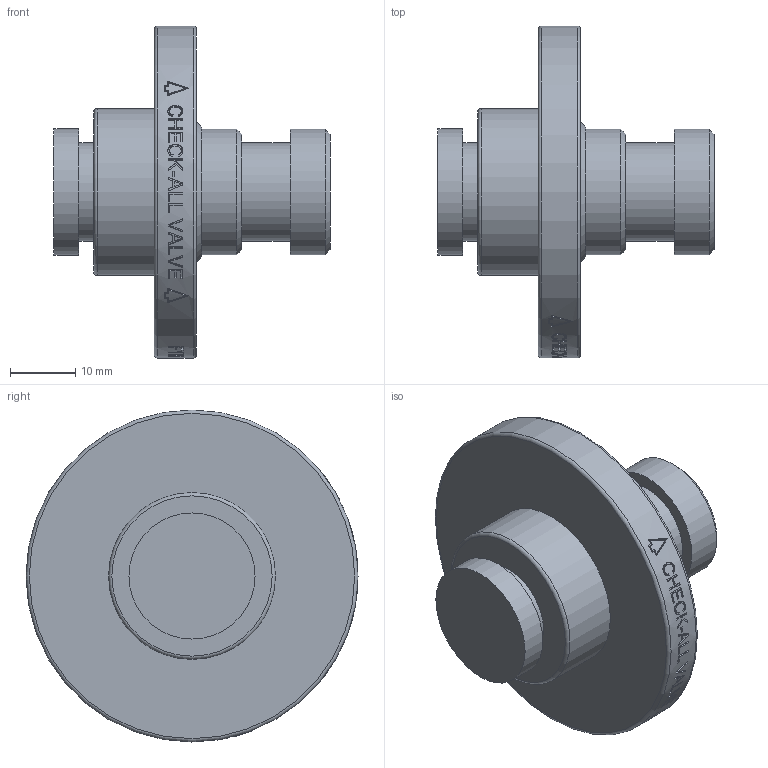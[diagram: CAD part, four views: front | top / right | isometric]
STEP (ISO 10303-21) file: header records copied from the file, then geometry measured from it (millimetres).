
FILE_DESCRIPTION( ( 'Unknown' ), '1' );
FILE_NAME( 'Y:/ENGR/3D Solid Edge Models/F1/F1 STEP/F1H.stp', 'Unknown', ( 'Unknown' ), ( 'Unknown' ), 'PSStep 14.0', 'Unknown', ' ' );
FILE_SCHEMA( ( 'AUTOMOTIVE_DESIGN { 1 0 10303 214 1 1 1 1 }' ) );
Length unit declared in the file: millimetre
Products named in the file (1): 1
Bounding box: 42.27 x 50.8 x 50.8 mm (x, y, z)
Volume: 24436.8 mm3; surface area: 7636.1 mm2
Topology: 1 solids, 1 shells, 216 faces, 547 edges, 363 vertices
Faces by surface type: plane 137, bspline 43, cylinder 30, torus 3, cone 3
Full cylindrical faces by diameter (mm): 15.062 x2, 19.177 x2, 19.304 x1, 25.527 x1, 50.8 x1
Entity records: 9175 total; most frequent: CARTESIAN_POINT 3393, ORIENTED_EDGE 1068, EDGE_CURVE 534, B_SPLINE_CURVE_WITH_KNOTS 513, DIRECTION 390, VERTEX_POINT 363, EDGE_LOOP 259, FACE_OUTER_BOUND 226
